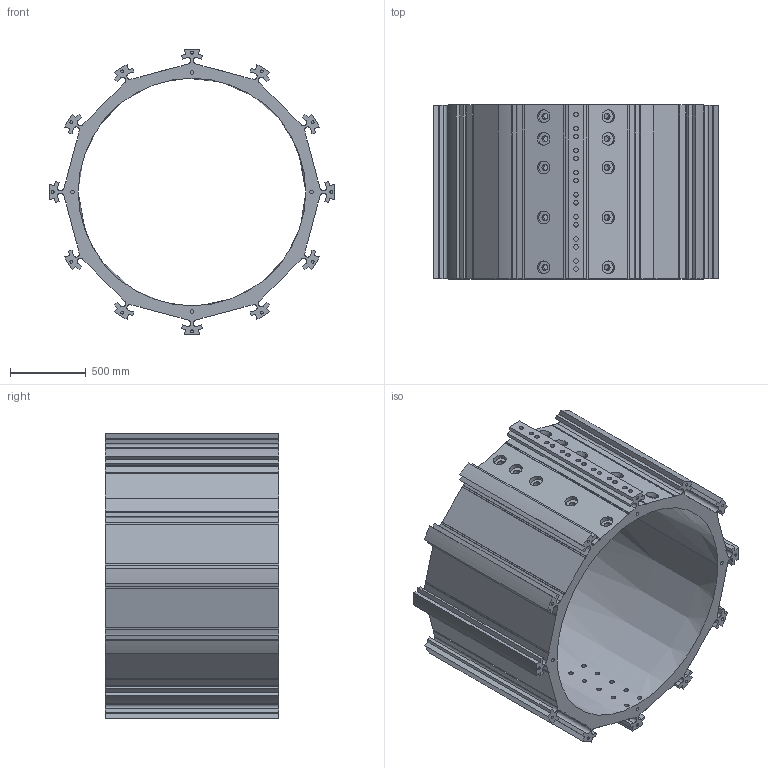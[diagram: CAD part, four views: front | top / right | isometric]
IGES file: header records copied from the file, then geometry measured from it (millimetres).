
Start section:  PTC IGES file: sst_ir_af0.igs
Global section: file name: sst_ir_af0.igs; native system: Pro/ENGINEER by Parametric Technology Corporation; preprocessor: 1999260; author: oshatz; organization: Unknown; date: 000922.101603; units: millimetre
Bounding box: 1889.71 x 1149 x 1887.36 mm (x, y, z)
Surface area: 19075674.9 mm2 (no closed solid volume)
Topology: 0 solids, 0 shells, 578 faces, 2844 edges, 2844 vertices
Faces by surface type: bspline 314, revolution 264
